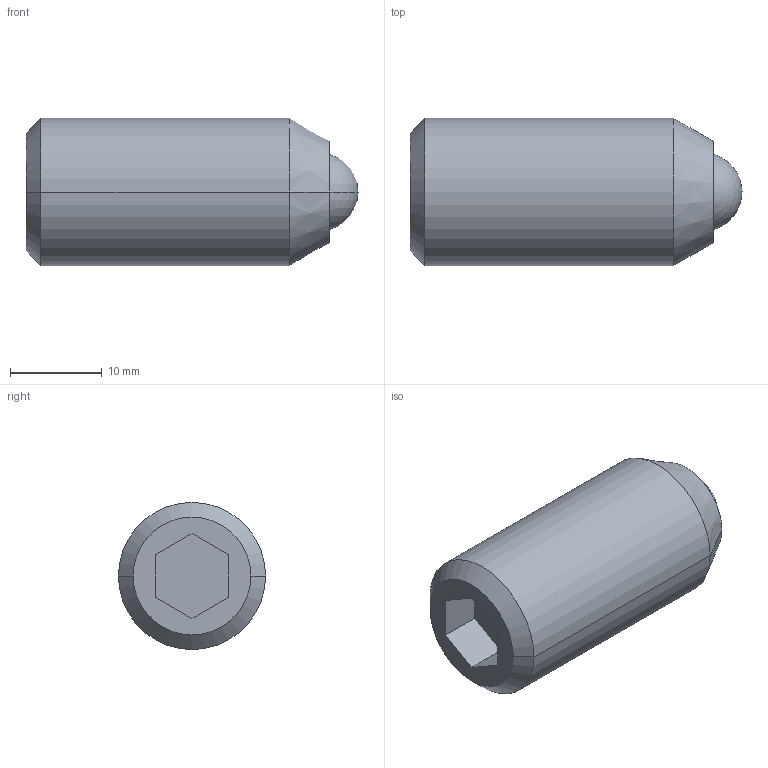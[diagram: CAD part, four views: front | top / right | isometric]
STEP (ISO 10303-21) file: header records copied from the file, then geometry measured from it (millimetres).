
FILE_DESCRIPTION (( 'STEP AP214' ), '1' );
FILE_NAME ('615.9-M16-KSN.step', '2022-12-09T10:30:58', ( '' ), ( '' ), 'SwSTEP 2.0', 'SolidWorks 2022', '' );
FILE_SCHEMA (( 'AUTOMOTIVE_DESIGN' ));
Length unit declared in the file: millimetre
Products named in the file (1): 615.9-M16-KSN
Bounding box: 36.1 x 16 x 16 mm (x, y, z)
Volume: 6179 mm3; surface area: 2054.3 mm2
Topology: 1 solids, 1 shells, 23 faces, 48 edges, 31 vertices
Faces by surface type: plane 11, cylinder 6, cone 4, sphere 2
Entity records: 685 total; most frequent: DIRECTION 116, CARTESIAN_POINT 103, ORIENTED_EDGE 96, EDGE_CURVE 48, AXIS2_PLACEMENT_3D 44, VERTEX_POINT 31, LINE 28, VECTOR 28
